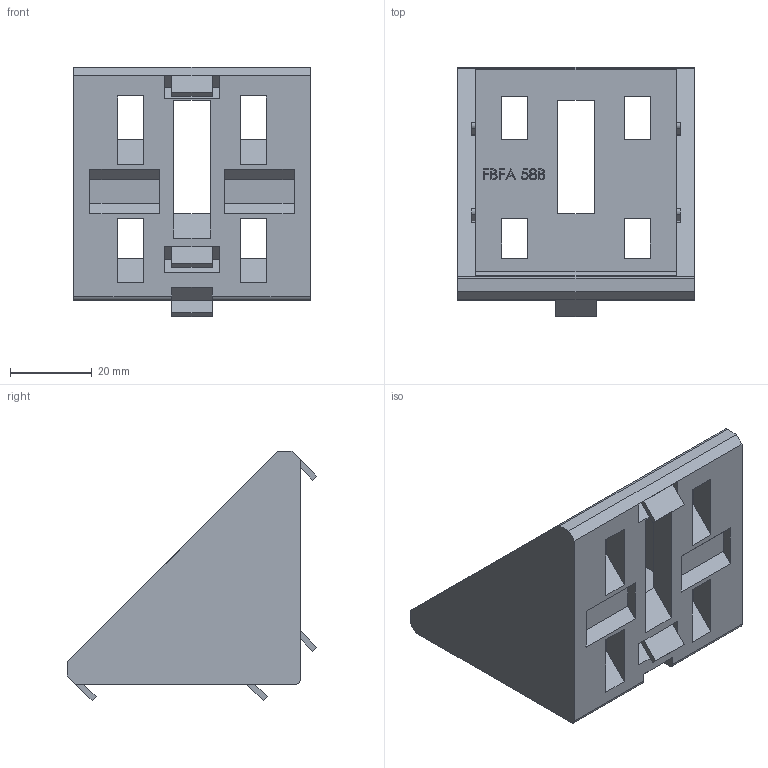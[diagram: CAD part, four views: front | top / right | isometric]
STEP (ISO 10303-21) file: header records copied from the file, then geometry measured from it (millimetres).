
FILE_DESCRIPTION (( 'STEP AP214' ), '1' );
FILE_NAME ('FBFA 58B.step', '2017-04-05T08:01:36', ( '' ), ( '' ), 'SwSTEP 2.0', 'SolidWorks 2015', '' );
FILE_SCHEMA (( 'AUTOMOTIVE_DESIGN' ));
Length unit declared in the file: millimetre
Products named in the file (1): FBFA 58B
Bounding box: 58 x 61.03 x 61.03 mm (x, y, z)
Volume: 39666.4 mm3; surface area: 20800.9 mm2
Topology: 1 solids, 1 shells, 257 faces, 688 edges, 456 vertices
Faces by surface type: plane 193, bspline 43, cylinder 21
Entity records: 10344 total; most frequent: CARTESIAN_POINT 4093, ORIENTED_EDGE 1376, DIRECTION 1074, EDGE_CURVE 688, VECTOR 560, LINE 560, VERTEX_POINT 456, EDGE_LOOP 300
